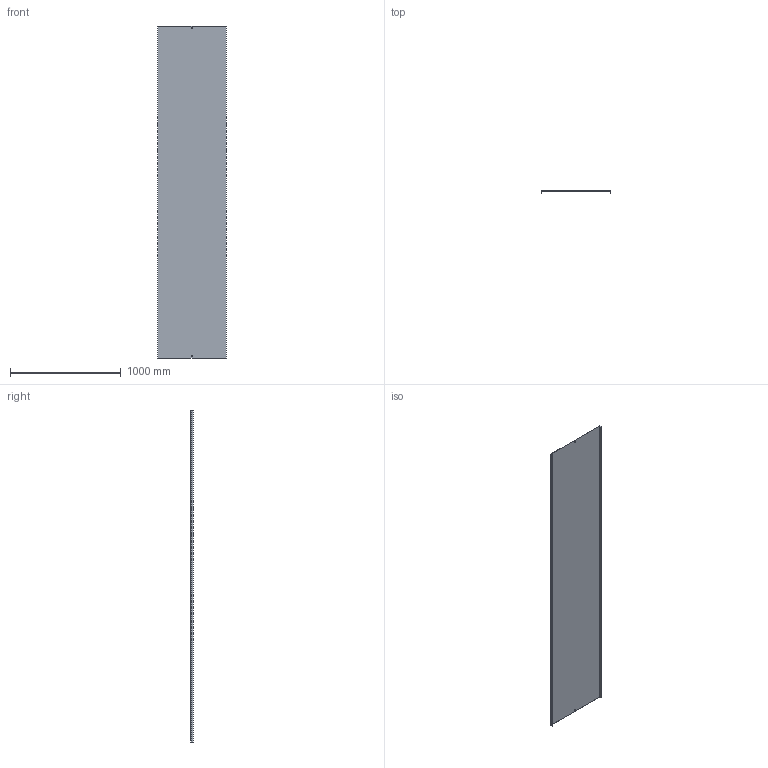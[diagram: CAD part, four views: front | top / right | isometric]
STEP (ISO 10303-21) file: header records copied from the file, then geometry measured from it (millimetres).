
FILE_DESCRIPTION (( 'STEP AP214' ), '1' );
FILE_NAME ('05G3P600.step', '2025-02-21T14:22:33', ( '' ), ( '' ), 'SwSTEP 2.0', 'SolidWorks 2023', '' );
FILE_SCHEMA (( 'AUTOMOTIVE_DESIGN' ));
Length unit declared in the file: millimetre
Products named in the file (1): 05G3P600
Bounding box: 623 x 20 x 3000 mm (x, y, z)
Volume: 2969824.5 mm3; surface area: 3970839 mm2
Topology: 1 solids, 1 shells, 18 faces, 48 edges, 32 vertices
Faces by surface type: plane 18
Entity records: 583 total; most frequent: CARTESIAN_POINT 99, ORIENTED_EDGE 96, DIRECTION 86, LINE 48, VECTOR 48, EDGE_CURVE 48, VERTEX_POINT 32, EDGE_LOOP 22
